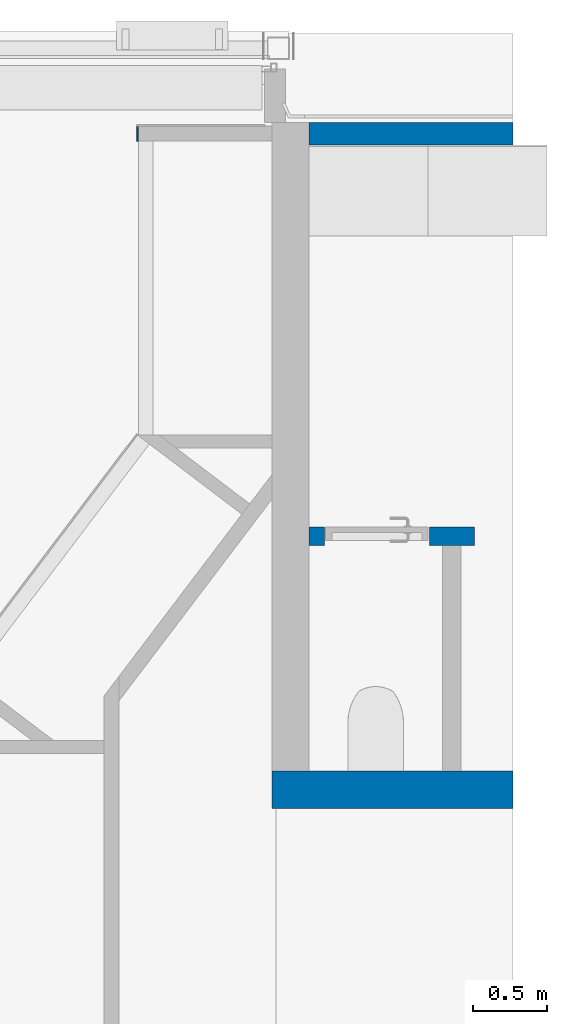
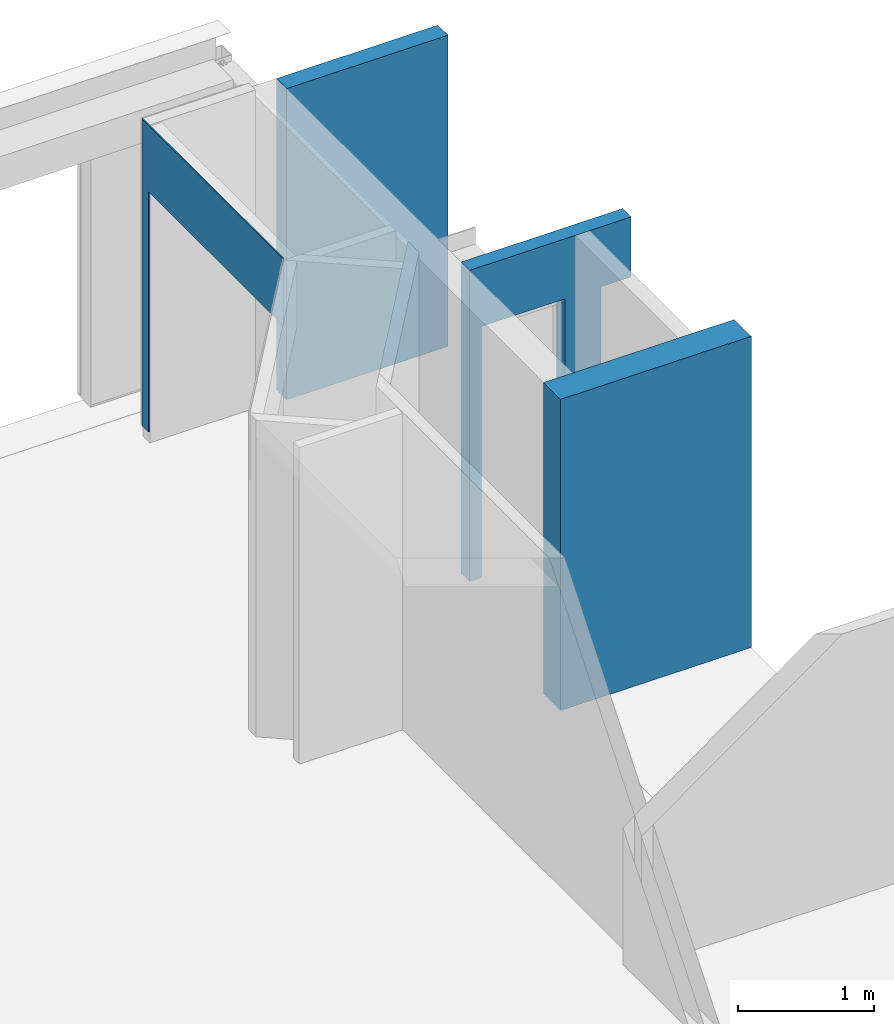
# One storey, part 29 of 37: 4 walls.
"""IFC2X3 building model written with IfcOpenShell, lengths in millimetres."""

from ifc_helpers import new_model, entity, si_unit, converted_unit, derived_unit, direction, frame, origin_with_axes, place, context, subcontext, project, spatial, faceted_brep, material, layer, layer_set, type_object, element, save


model = new_model("IFC2X3")

# Units and contexts
model_context = context("Model", 3, precision=0.01, world=frame((0.0, 4.29681676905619e-09, 0.0)), true_north=direction((4.01073788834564e-13, 1.0)))
plan_context = context("Plan", 3, precision=0.01, world=frame((0.0, 4.29681676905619e-09, 0.0)), true_north=direction((4.01073788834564e-13, 1.0)))
body_context = subcontext(model_context, "Body", "Model", "MODEL_VIEW")
ifc_project = project(units=[converted_unit("PLANEANGLEUNIT", "DEGREE", entity("IfcPositiveLengthMeasure", 0.0174532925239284), si_unit("PLANEANGLEUNIT", "RADIAN"), dimensions=[0, 0, 0, 0, 0, 0, 0]), si_unit("AREAUNIT", "SQUARE_METRE"), si_unit("LENGTHUNIT", "METRE", prefix="MILLI"), si_unit("MASSUNIT", "GRAM", prefix="KILO"), si_unit("POWERUNIT", "WATT"), si_unit("PRESSUREUNIT", "PASCAL"), si_unit("FORCEUNIT", "NEWTON", prefix="KILO"), si_unit("ELECTRICVOLTAGEUNIT", "VOLT"), si_unit("ELECTRICCURRENTUNIT", "AMPERE"), si_unit("THERMODYNAMICTEMPERATUREUNIT", "DEGREE_CELSIUS"), si_unit("TIMEUNIT", "SECOND"), si_unit("VOLUMEUNIT", "CUBIC_METRE"), derived_unit("LINEARVELOCITYUNIT", [(si_unit("LENGTHUNIT", "METRE"), 1), (si_unit("TIMEUNIT", "SECOND"), -1)]), derived_unit("VOLUMETRICFLOWRATEUNIT", [(si_unit("VOLUMEUNIT", "CUBIC_METRE"), 1), (si_unit("TIMEUNIT", "SECOND"), -1)]), derived_unit("THERMALTRANSMITTANCEUNIT", [(si_unit("POWERUNIT", "WATT"), 1), (si_unit("THERMODYNAMICTEMPERATUREUNIT", "KELVIN"), -1), (si_unit("AREAUNIT", "SQUARE_METRE"), -1)]), derived_unit("SOUNDPRESSUREUNIT", [(si_unit("PRESSUREUNIT", "PASCAL"), 1)])], contexts=[model_context, plan_context])

# Site, building, storey
site_placement = place(None, origin_with_axes())
site = spatial("IfcSite", under=ifc_project, at=site_placement, Name="ENGM", CompositionType="ELEMENT")
building_placement = place(site_placement, origin_with_axes())
building = spatial("IfcBuilding", under=site, at=building_placement, Name="TS", CompositionType="ELEMENT")
storey_placement = place(building_placement, frame((0.0, 0.0, 210900.0), z_axis=(0.0, 0.0, 1.0), x_axis=(1.0, 0.0, 0.0)))
storey = spatial("IfcBuildingStorey", under=building, at=storey_placement, Name="Nivå F", CompositionType="ELEMENT", Elevation=210900.0)

# Walls
ifc_material_1 = material(Name="Plate - Gips")
ifc_layer_1 = layer(ifc_material_1, 12.5)
ifc_layer_2 = layer(ifc_material_1, 12.5)
ifc_material_2 = material(Name="_NSW Stålstender, uisolert")
ifc_layer_3 = layer(ifc_material_2, 100.0)
ifc_layer_4 = layer(ifc_material_1, 12.5)
ifc_layer_5 = layer(ifc_material_1, 12.5)
ifc_layer_set_1 = layer_set([ifc_layer_1, ifc_layer_2, ifc_layer_3, ifc_layer_4, ifc_layer_5], Name="Basic Wall:A241 - GSVS-30 (100/100 gg-gg)")
wall_type_1 = type_object("IfcWallType", Name="Basic Wall:A241 - GSVS-30 (100/100 gg-gg)", PredefinedType="STANDARD", material=ifc_layer_set_1)
wall_1_placement = place(storey_placement, frame((534946.99999998, 461224.300000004, 0.0), z_axis=(0.0, 0.0, 1.0), x_axis=(1.0, 0.0, 0.0)))
element("IfcWall", 1, at=wall_1_placement, inside=storey, type_object=wall_type_1, Name="Basic Wall:A241 - GSVS-30 (100/100 gg-gg)", ObjectType="Basic Wall:A241 - GSVS-30 (100/100 gg-gg)", context=body_context, shape_type="Brep", body=[
    faceted_brep([(-4.54747350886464e-13, 74.9999999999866, 0.0), (-4.54747350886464e-13, 74.9999999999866, 2799.99999999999), (-4.54747350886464e-13, -75.000000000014, 2799.99999999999), (-4.54747350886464e-13, -75.000000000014, 0.0), (1373.50000002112, -75.000000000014, 2799.99999999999), (1373.50000002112, -75.000000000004, -2.60485541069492e-12), (1373.50000002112, 74.9999999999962, -2.60485541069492e-12), (1373.50000002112, 74.9999999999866, 2799.99999999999)], [[[0, 1, 2, 3]], [[4, 5, 3, 2]], [[6, 7, 1, 0]], [[5, 6, 0, 3]], [[7, 4, 2, 1]], [[7, 6, 5, 4]]], orient=[[False], [False], [False], [False], [False], [False]]),
])
ifc_layer_6 = layer(ifc_material_1, 12.5)
ifc_layer_7 = layer(ifc_material_1, 12.5)
ifc_layer_8 = layer(ifc_material_2, 200.0)
ifc_layer_9 = layer(ifc_material_1, 12.5)
ifc_layer_10 = layer(ifc_material_1, 12.5)
ifc_layer_set_2 = layer_set([ifc_layer_6, ifc_layer_7, ifc_layer_8, ifc_layer_9, ifc_layer_10], Name="Basic Wall:A241 - GSVS-50 (100/100x2 gg-gg)")
wall_type_2 = type_object("IfcWallType", Name="Basic Wall:A241 - GSVS-50 (100/100x2 gg-gg)", PredefinedType="STANDARD", material=ifc_layer_set_2)
wall_2_placement = place(storey_placement, frame((541054.0, 456807.300000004, 0.0), z_axis=(0.0, 0.0, 1.0), x_axis=(-1.0, 0.0, 0.0)))
element("IfcWall", 2, at=wall_2_placement, inside=storey, type_object=wall_type_2, Name="Basic Wall:A241 - GSVS-50 (100/100x2 gg-gg)", ObjectType="Basic Wall:A241 - GSVS-50 (100/100x2 gg-gg)", context=body_context, shape_type="Brep", body=[
    faceted_brep([(6357.00000002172, -124.999999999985, 0.0), (6357.00000002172, -124.999999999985, 2799.99999999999), (6357.00000002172, 124.999999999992, 2799.99999999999), (6357.00000002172, 124.999999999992, 0.0), (4733.49999999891, 124.999999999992, 2799.99999999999), (4733.49999999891, 124.999999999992, 0.0), (4733.49999999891, -124.999999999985, 0.0), (4733.49999999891, -124.999999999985, 2799.99999999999)], [[[0, 1, 2, 3]], [[4, 5, 3, 2]], [[6, 7, 1, 0]], [[5, 6, 0, 3]], [[7, 4, 2, 1]], [[7, 6, 5, 4]]], orient=[[False], [False], [False], [False], [False], [False]]),
])
ifc_layer_11 = layer(ifc_material_1, 12.5)
ifc_layer_12 = layer(ifc_material_2, 100.0)
ifc_layer_13 = layer(ifc_material_1, 12.5)
ifc_layer_set_3 = layer_set([ifc_layer_11, ifc_layer_12, ifc_layer_13], Name="Basic Wall:A241 - GRVR-20 (100/100 r-r)")
wall_type_3 = type_object("IfcWallType", Name="Basic Wall:A241 - GRVR-20 (100/100 r-r)", PredefinedType="STANDARD", material=ifc_layer_set_3)
wall_3_placement = place(storey_placement, frame((537876.999999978, 458515.300000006, 0.0), z_axis=(0.0, 0.0, 1.0), x_axis=(-1.0, 0.0, 0.0)))
element("IfcWall", 3, at=wall_3_placement, inside=storey, type_object=wall_type_3, Name="Basic Wall:A241 - GRVR-20 (100/100 r-r)", ObjectType="Basic Wall:A241 - GRVR-20 (100/100 r-r)", context=body_context, shape_type="Brep", body=[
    faceted_brep([(1556.4999999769, -62.5000000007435, 2259.99999999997), (1556.4999999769, -62.4999999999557, 2799.99999999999), (2929.99999999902, -62.4999999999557, 2799.99999999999), (2929.99999999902, -62.4999999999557, 0.0), (2828.24999997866, -62.5000000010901, -1.36424205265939e-12), (2828.24999997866, -62.5000000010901, 2259.99999999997), (2118.24999997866, -62.5000000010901, 2259.99999999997), (2118.24999997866, -62.5000000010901, -1.36424205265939e-12), (1814.99999997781, -62.5000000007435, -1.36424205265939e-12), (1814.99999997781, -62.5000000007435, 2259.99999999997), (2929.99999999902, 62.5000000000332, 2799.99999999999), (2929.99999999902, 62.5000000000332, 0.0), (1556.4999999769, 62.5000000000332, 2799.99999999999), (1556.4999999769, 62.4999999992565, 2259.99999999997), (1814.99999997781, 62.4999999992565, 2259.99999999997), (1814.99999997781, 62.4999999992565, -1.36424205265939e-12), (2118.24999997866, 62.49999999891, -1.36424205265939e-12), (2118.24999997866, 62.49999999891, 2259.99999999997), (2828.24999997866, 62.49999999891, 2259.99999999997), (2828.24999997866, 62.49999999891, -1.36424205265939e-12)], [[[0, 1, 2, 3, 4, 5, 6, 7, 8, 9]], [[3, 2, 10, 11]], [[12, 13, 14, 15, 16, 17, 18, 19, 11, 10]], [[19, 4, 3, 11]], [[7, 16, 15, 8]], [[1, 12, 10, 2]], [[18, 5, 4, 19]], [[17, 6, 5, 18]], [[16, 7, 6, 17]], [[14, 9, 8, 15]], [[13, 0, 9, 14]], [[13, 12, 1, 0]]], orient=[[False], [False], [False], [False], [False], [False], [False], [False], [False], [False], [False], [False]]),
])
ifc_material_3 = material(Name="T2 - Flisvegg 200x100")
ifc_layer_14 = layer(ifc_material_3, 10.0)
ifc_layer_set_4 = layer_set([ifc_layer_14], Name="Basic Wall:A231 - KL-K03 Metro Flis 10mm")
wall_type_4 = type_object("IfcWallType", Name="Basic Wall:A231 - KL-K03 Metro Flis 10mm", PredefinedType="STANDARD", material=ifc_layer_set_4)
wall_4_placement = place(storey_placement, frame((533792.060848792, 459189.075434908, 100.0), z_axis=(0.0, 0.0, 1.0), x_axis=(0.0, 1.0, 0.0)))
element("IfcWall", 4, at=wall_4_placement, inside=storey, type_object=wall_type_4, Name="Basic Wall:A231 - KL-K03 Metro Flis 10mm", ObjectType="Basic Wall:A231 - KL-K03 Metro Flis 10mm", context=body_context, shape_type="Brep", body=[
    faceted_brep([(13.1889763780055, -5.0, 2160.0), (1985.92456508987, -5.0, 2160.0), (1985.92456508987, -5.0, 0.0), (2085.92456508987, -5.0, 0.0), (2085.92456508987, -5.0, 2760.0), (13.1889763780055, -5.0, 2760.0), (0.0, 5.0, 2160.0), (0.0, 5.0, 2760.0), (16.551407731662, 5.0, 2760.0), (2085.92456508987, 5.0, 2760.0), (2085.92456508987, 5.0, 0.0), (1985.92456508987, 5.0, 0.0), (1985.92456508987, 5.0, 2160.0)], [[[0, 1, 2, 3, 4, 5]], [[6, 7, 8, 9, 10, 11, 12]], [[1, 0, 6, 12]], [[5, 4, 9, 8, 7]], [[2, 1, 12, 11]], [[3, 2, 11, 10]], [[4, 3, 10, 9]], [[0, 5, 7, 6]]]),
])

save(model, "model.ifc")
